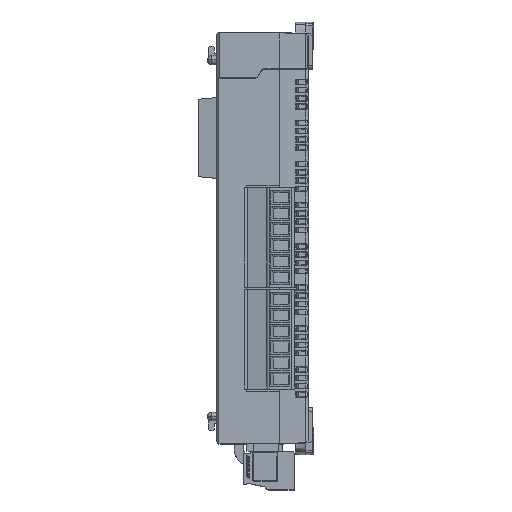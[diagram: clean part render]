
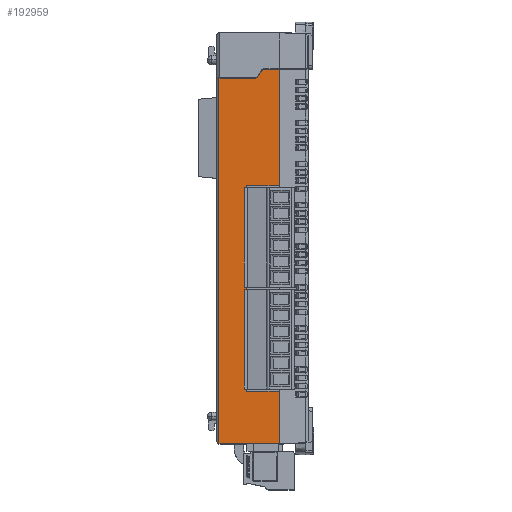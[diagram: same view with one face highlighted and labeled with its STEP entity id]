
A CAD part, top view. The second image highlights one B-rep face of the part: STEP entity #192959.
In plain terms, the highlighted planar face has unit normal (0, 0, 1).
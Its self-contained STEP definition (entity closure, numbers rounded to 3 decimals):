
#91 = DIRECTION ( 'NONE',  ( 0., -1., 0. ) ) ;
#741 = VERTEX_POINT ( 'NONE', #188155 ) ;
#1291 = CARTESIAN_POINT ( 'NONE',  ( 57.291, 36.427, 40.201 ) ) ;
#2459 = CARTESIAN_POINT ( 'NONE',  ( 62.723, 38.427, 40.201 ) ) ;
#5472 = VERTEX_POINT ( 'NONE', #2459 ) ;
#6339 = CARTESIAN_POINT ( 'NONE',  ( 62.723, -32.073, 40.201 ) ) ;
#9023 = ORIENTED_EDGE ( 'NONE', *, *, #157863, .F. ) ;
#9193 = AXIS2_PLACEMENT_3D ( 'NONE', #62661, #187776, #27831 ) ;
#9454 = VECTOR ( 'NONE', #21745, 1000. ) ;
#9915 = DIRECTION ( 'NONE',  ( 1., 0., 0. ) ) ;
#14905 = EDGE_CURVE ( 'NONE', #85713, #91728, #140710, .T. ) ;
#16567 = DIRECTION ( 'NONE',  ( 0., -1., 0. ) ) ;
#18351 = CARTESIAN_POINT ( 'NONE',  ( 62.723, 12.927, 40.201 ) ) ;
#18581 = DIRECTION ( 'NONE',  ( 1., 0., 0. ) ) ;
#20095 = CARTESIAN_POINT ( 'NONE',  ( 55.523, 1.427, 40.201 ) ) ;
#20804 = CARTESIAN_POINT ( 'NONE',  ( 49.523, -43.573, 40.201 ) ) ;
#21745 = DIRECTION ( 'NONE',  ( -1., 0., 0. ) ) ;
#24114 = LINE ( 'NONE', #20095, #144722 ) ;
#26053 = CARTESIAN_POINT ( 'NONE',  ( 55.523, -32.073, 40.201 ) ) ;
#27831 = DIRECTION ( 'NONE',  ( 0., -1., 0. ) ) ;
#27835 = CARTESIAN_POINT ( 'NONE',  ( 62.723, 46.427, 40.201 ) ) ;
#29664 = VECTOR ( 'NONE', #91, 1000. ) ;
#30530 = CARTESIAN_POINT ( 'NONE',  ( 58.734, 37.927, 40.201 ) ) ;
#30995 = CARTESIAN_POINT ( 'NONE',  ( 49.023, -43.573, 40.201 ) ) ;
#34894 = ORIENTED_EDGE ( 'NONE', *, *, #107803, .T. ) ;
#41913 = DIRECTION ( 'NONE',  ( 1., 0., 0. ) ) ;
#42924 = LINE ( 'NONE', #183417, #180421 ) ;
#44391 = LINE ( 'NONE', #30995, #147001 ) ;
#45227 = EDGE_CURVE ( 'NONE', #98669, #130095, #24114, .T. ) ;
#54412 = EDGE_CURVE ( 'NONE', #85713, #135516, #98240, .T. ) ;
#55153 = ORIENTED_EDGE ( 'NONE', *, *, #87179, .T. ) ;
#59980 = CARTESIAN_POINT ( 'NONE',  ( 62.723, 1.427, 40.201 ) ) ;
#62661 = CARTESIAN_POINT ( 'NONE',  ( 57.291, 37.427, 40.201 ) ) ;
#63150 = ORIENTED_EDGE ( 'NONE', *, *, #158957, .T. ) ;
#63761 = ORIENTED_EDGE ( 'NONE', *, *, #14905, .T. ) ;
#66932 = ORIENTED_EDGE ( 'NONE', *, *, #185162, .F. ) ;
#68811 = CARTESIAN_POINT ( 'NONE',  ( 59.6, 38.427, 40.201 ) ) ;
#71046 = CARTESIAN_POINT ( 'NONE',  ( 58.157, 36.927, 40.201 ) ) ;
#71064 = VECTOR ( 'NONE', #181200, 1000. ) ;
#73048 = DIRECTION ( 'NONE',  ( 0., 0., 1. ) ) ;
#74094 = LINE ( 'NONE', #201190, #91868 ) ;
#75338 = DIRECTION ( 'NONE',  ( 0., 1., 0. ) ) ;
#75501 = PLANE ( 'NONE',  #99664 ) ;
#85713 = VERTEX_POINT ( 'NONE', #162995 ) ;
#87179 = EDGE_CURVE ( 'NONE', #104942, #135516, #130328, .T. ) ;
#88729 = EDGE_LOOP ( 'NONE', ( #105177, #140526, #198361, #63150, #9023, #161690, #34894, #66932, #55153, #199985, #63761, #122099 ) ) ;
#91728 = VERTEX_POINT ( 'NONE', #20804 ) ;
#91868 = VECTOR ( 'NONE', #18581, 1000. ) ;
#95648 = DIRECTION ( 'NONE',  ( 1., 0., 0. ) ) ;
#97491 = VERTEX_POINT ( 'NONE', #30530 ) ;
#98240 = LINE ( 'NONE', #177177, #103468 ) ;
#98669 = VERTEX_POINT ( 'NONE', #26053 ) ;
#99664 = AXIS2_PLACEMENT_3D ( 'NONE', #185199, #138072, #154461 ) ;
#103468 = VECTOR ( 'NONE', #9915, 1000. ) ;
#104942 = VERTEX_POINT ( 'NONE', #71046 ) ;
#105177 = ORIENTED_EDGE ( 'NONE', *, *, #187319, .F. ) ;
#105293 = FACE_OUTER_BOUND ( 'NONE', #88729, .T. ) ;
#107803 = EDGE_CURVE ( 'NONE', #200422, #97491, #118532, .T. ) ;
#108711 = CARTESIAN_POINT ( 'NONE',  ( 55.523, 12.927, 40.201 ) ) ;
#111936 = AXIS2_PLACEMENT_3D ( 'NONE', #134619, #73048, #167393 ) ;
#115368 = VECTOR ( 'NONE', #16567, 1000. ) ;
#115587 = CARTESIAN_POINT ( 'NONE',  ( 62.723, -43.573, 40.201 ) ) ;
#116119 = LINE ( 'NONE', #6339, #9454 ) ;
#118532 = CIRCLE ( 'NONE', #111936, 1. ) ;
#119651 = CARTESIAN_POINT ( 'NONE',  ( 59.023, 38.427, 40.201 ) ) ;
#120559 = LINE ( 'NONE', #59980, #147681 ) ;
#122099 = ORIENTED_EDGE ( 'NONE', *, *, #169377, .T. ) ;
#125998 = VERTEX_POINT ( 'NONE', #115587 ) ;
#126331 = CARTESIAN_POINT ( 'NONE',  ( 49.523, -43.573, 40.201 ) ) ;
#130095 = VERTEX_POINT ( 'NONE', #108711 ) ;
#130328 = CIRCLE ( 'NONE', #9193, 1. ) ;
#134619 = CARTESIAN_POINT ( 'NONE',  ( 59.6, 37.427, 40.201 ) ) ;
#135516 = VERTEX_POINT ( 'NONE', #1291 ) ;
#138072 = DIRECTION ( 'NONE',  ( 0., 0., 1. ) ) ;
#140526 = ORIENTED_EDGE ( 'NONE', *, *, #172970, .T. ) ;
#140710 = LINE ( 'NONE', #126331, #115368 ) ;
#144722 = VECTOR ( 'NONE', #75338, 1000. ) ;
#147001 = VECTOR ( 'NONE', #95648, 1000. ) ;
#147681 = VECTOR ( 'NONE', #184096, 1000. ) ;
#151983 = LINE ( 'NONE', #27835, #29664 ) ;
#154461 = DIRECTION ( 'NONE',  ( 0., -1., 0. ) ) ;
#157186 = VERTEX_POINT ( 'NONE', #18351 ) ;
#157863 = EDGE_CURVE ( 'NONE', #5472, #157186, #120559, .T. ) ;
#158957 = EDGE_CURVE ( 'NONE', #130095, #157186, #74094, .T. ) ;
#161690 = ORIENTED_EDGE ( 'NONE', *, *, #199168, .F. ) ;
#162995 = CARTESIAN_POINT ( 'NONE',  ( 49.523, 36.427, 40.201 ) ) ;
#167393 = DIRECTION ( 'NONE',  ( 0., -1., 0. ) ) ;
#169377 = EDGE_CURVE ( 'NONE', #91728, #125998, #44391, .T. ) ;
#172970 = EDGE_CURVE ( 'NONE', #741, #98669, #116119, .T. ) ;
#177177 = CARTESIAN_POINT ( 'NONE',  ( 57.868, 36.427, 40.201 ) ) ;
#180207 = LINE ( 'NONE', #119651, #71064 ) ;
#180421 = VECTOR ( 'NONE', #41913, 1000. ) ;
#181200 = DIRECTION ( 'NONE',  ( 0.5, 0.866, 0. ) ) ;
#183417 = CARTESIAN_POINT ( 'NONE',  ( 62.723, 38.427, 40.201 ) ) ;
#184096 = DIRECTION ( 'NONE',  ( 0., -1., 0. ) ) ;
#185162 = EDGE_CURVE ( 'NONE', #104942, #97491, #180207, .T. ) ;
#185199 = CARTESIAN_POINT ( 'NONE',  ( 49.023, 46.427, 40.201 ) ) ;
#187319 = EDGE_CURVE ( 'NONE', #741, #125998, #151983, .T. ) ;
#187776 = DIRECTION ( 'NONE',  ( 0., 0., -1. ) ) ;
#188155 = CARTESIAN_POINT ( 'NONE',  ( 62.723, -32.073, 40.201 ) ) ;
#192959 = ADVANCED_FACE ( 'NONE', ( #105293 ), #75501, .T. ) ;
#198361 = ORIENTED_EDGE ( 'NONE', *, *, #45227, .T. ) ;
#199168 = EDGE_CURVE ( 'NONE', #200422, #5472, #42924, .T. ) ;
#199985 = ORIENTED_EDGE ( 'NONE', *, *, #54412, .F. ) ;
#200422 = VERTEX_POINT ( 'NONE', #68811 ) ;
#201190 = CARTESIAN_POINT ( 'NONE',  ( 62.723, 12.927, 40.201 ) ) ;
